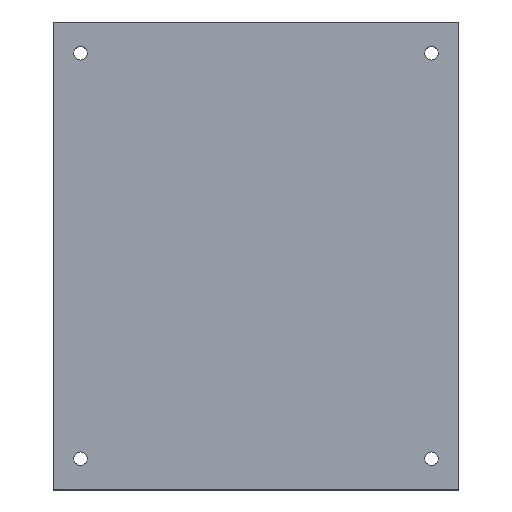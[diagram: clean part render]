
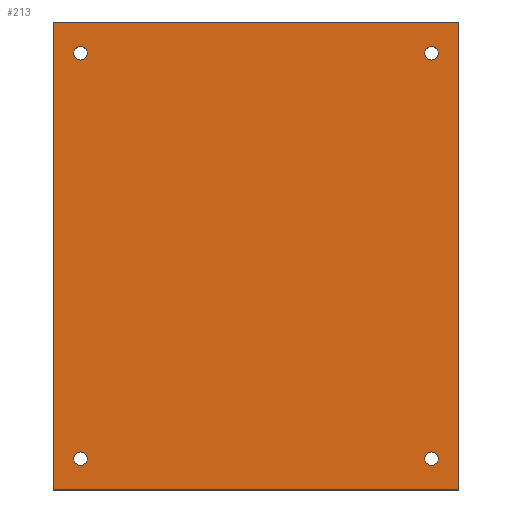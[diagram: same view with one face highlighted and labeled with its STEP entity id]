
A CAD part, top view. The second image highlights one B-rep face of the part: STEP entity #213.
In plain terms, the highlighted planar face has unit normal (0, 0, 1).
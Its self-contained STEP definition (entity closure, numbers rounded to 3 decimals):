
#24 = VERTEX_POINT('',#25);
#25 = CARTESIAN_POINT('',(0.,0.,5.));
#32 = PLANE('',#33);
#33 = AXIS2_PLACEMENT_3D('',#34,#35,#36);
#34 = CARTESIAN_POINT('',(0.,0.,0.));
#35 = DIRECTION('',(1.,0.,0.));
#36 = DIRECTION('',(0.,0.,1.));
#44 = PLANE('',#45);
#45 = AXIS2_PLACEMENT_3D('',#46,#47,#48);
#46 = CARTESIAN_POINT('',(0.,0.,0.));
#47 = DIRECTION('',(0.,1.,0.));
#48 = DIRECTION('',(0.,0.,1.));
#85 = VERTEX_POINT('',#86);
#86 = CARTESIAN_POINT('',(0.,120.,5.));
#100 = PLANE('',#101);
#101 = AXIS2_PLACEMENT_3D('',#102,#103,#104);
#102 = CARTESIAN_POINT('',(0.,120.,0.));
#103 = DIRECTION('',(0.,1.,0.));
#104 = DIRECTION('',(0.,0.,1.));
#112 = EDGE_CURVE('',#24,#85,#113,.T.);
#113 = SURFACE_CURVE('',#114,(#118,#125),.PCURVE_S1.);
#114 = LINE('',#115,#116);
#115 = CARTESIAN_POINT('',(0.,0.,5.));
#116 = VECTOR('',#117,1.);
#117 = DIRECTION('',(0.,1.,0.));
#118 = PCURVE('',#32,#119);
#119 = DEFINITIONAL_REPRESENTATION('',(#120),#124);
#120 = LINE('',#121,#122);
#121 = CARTESIAN_POINT('',(5.,0.));
#122 = VECTOR('',#123,1.);
#123 = DIRECTION('',(0.,-1.));
#124 = ( GEOMETRIC_REPRESENTATION_CONTEXT(2) 
PARAMETRIC_REPRESENTATION_CONTEXT() REPRESENTATION_CONTEXT('2D SPACE',''
  ) );
#125 = PCURVE('',#126,#131);
#126 = PLANE('',#127);
#127 = AXIS2_PLACEMENT_3D('',#128,#129,#130);
#128 = CARTESIAN_POINT('',(0.,0.,5.));
#129 = DIRECTION('',(0.,0.,1.));
#130 = DIRECTION('',(1.,0.,0.));
#131 = DEFINITIONAL_REPRESENTATION('',(#132),#136);
#132 = LINE('',#133,#134);
#133 = CARTESIAN_POINT('',(0.,0.));
#134 = VECTOR('',#135,1.);
#135 = DIRECTION('',(0.,1.));
#136 = ( GEOMETRIC_REPRESENTATION_CONTEXT(2) 
PARAMETRIC_REPRESENTATION_CONTEXT() REPRESENTATION_CONTEXT('2D SPACE',''
  ) );
#165 = EDGE_CURVE('',#24,#166,#168,.T.);
#166 = VERTEX_POINT('',#167);
#167 = CARTESIAN_POINT('',(104.,0.,5.));
#168 = SURFACE_CURVE('',#169,(#173,#180),.PCURVE_S1.);
#169 = LINE('',#170,#171);
#170 = CARTESIAN_POINT('',(0.,0.,5.));
#171 = VECTOR('',#172,1.);
#172 = DIRECTION('',(1.,0.,0.));
#173 = PCURVE('',#44,#174);
#174 = DEFINITIONAL_REPRESENTATION('',(#175),#179);
#175 = LINE('',#176,#177);
#176 = CARTESIAN_POINT('',(5.,0.));
#177 = VECTOR('',#178,1.);
#178 = DIRECTION('',(0.,1.));
#179 = ( GEOMETRIC_REPRESENTATION_CONTEXT(2) 
PARAMETRIC_REPRESENTATION_CONTEXT() REPRESENTATION_CONTEXT('2D SPACE',''
  ) );
#180 = PCURVE('',#126,#181);
#181 = DEFINITIONAL_REPRESENTATION('',(#182),#186);
#182 = LINE('',#183,#184);
#183 = CARTESIAN_POINT('',(0.,0.));
#184 = VECTOR('',#185,1.);
#185 = DIRECTION('',(1.,0.));
#186 = ( GEOMETRIC_REPRESENTATION_CONTEXT(2) 
PARAMETRIC_REPRESENTATION_CONTEXT() REPRESENTATION_CONTEXT('2D SPACE',''
  ) );
#202 = PLANE('',#203);
#203 = AXIS2_PLACEMENT_3D('',#204,#205,#206);
#204 = CARTESIAN_POINT('',(104.,0.,0.));
#205 = DIRECTION('',(1.,0.,0.));
#206 = DIRECTION('',(0.,0.,1.));
#213 = ADVANCED_FACE('',(#214,#262,#293,#324,#355),#126,.T.);
#214 = FACE_BOUND('',#215,.T.);
#215 = EDGE_LOOP('',(#216,#217,#218,#241));
#216 = ORIENTED_EDGE('',*,*,#112,.F.);
#217 = ORIENTED_EDGE('',*,*,#165,.T.);
#218 = ORIENTED_EDGE('',*,*,#219,.T.);
#219 = EDGE_CURVE('',#166,#220,#222,.T.);
#220 = VERTEX_POINT('',#221);
#221 = CARTESIAN_POINT('',(104.,120.,5.));
#222 = SURFACE_CURVE('',#223,(#227,#234),.PCURVE_S1.);
#223 = LINE('',#224,#225);
#224 = CARTESIAN_POINT('',(104.,0.,5.));
#225 = VECTOR('',#226,1.);
#226 = DIRECTION('',(0.,1.,0.));
#227 = PCURVE('',#126,#228);
#228 = DEFINITIONAL_REPRESENTATION('',(#229),#233);
#229 = LINE('',#230,#231);
#230 = CARTESIAN_POINT('',(104.,0.));
#231 = VECTOR('',#232,1.);
#232 = DIRECTION('',(0.,1.));
#233 = ( GEOMETRIC_REPRESENTATION_CONTEXT(2) 
PARAMETRIC_REPRESENTATION_CONTEXT() REPRESENTATION_CONTEXT('2D SPACE',''
  ) );
#234 = PCURVE('',#202,#235);
#235 = DEFINITIONAL_REPRESENTATION('',(#236),#240);
#236 = LINE('',#237,#238);
#237 = CARTESIAN_POINT('',(5.,0.));
#238 = VECTOR('',#239,1.);
#239 = DIRECTION('',(0.,-1.));
#240 = ( GEOMETRIC_REPRESENTATION_CONTEXT(2) 
PARAMETRIC_REPRESENTATION_CONTEXT() REPRESENTATION_CONTEXT('2D SPACE',''
  ) );
#241 = ORIENTED_EDGE('',*,*,#242,.F.);
#242 = EDGE_CURVE('',#85,#220,#243,.T.);
#243 = SURFACE_CURVE('',#244,(#248,#255),.PCURVE_S1.);
#244 = LINE('',#245,#246);
#245 = CARTESIAN_POINT('',(0.,120.,5.));
#246 = VECTOR('',#247,1.);
#247 = DIRECTION('',(1.,0.,0.));
#248 = PCURVE('',#126,#249);
#249 = DEFINITIONAL_REPRESENTATION('',(#250),#254);
#250 = LINE('',#251,#252);
#251 = CARTESIAN_POINT('',(0.,120.));
#252 = VECTOR('',#253,1.);
#253 = DIRECTION('',(1.,0.));
#254 = ( GEOMETRIC_REPRESENTATION_CONTEXT(2) 
PARAMETRIC_REPRESENTATION_CONTEXT() REPRESENTATION_CONTEXT('2D SPACE',''
  ) );
#255 = PCURVE('',#100,#256);
#256 = DEFINITIONAL_REPRESENTATION('',(#257),#261);
#257 = LINE('',#258,#259);
#258 = CARTESIAN_POINT('',(5.,0.));
#259 = VECTOR('',#260,1.);
#260 = DIRECTION('',(0.,1.));
#261 = ( GEOMETRIC_REPRESENTATION_CONTEXT(2) 
PARAMETRIC_REPRESENTATION_CONTEXT() REPRESENTATION_CONTEXT('2D SPACE',''
  ) );
#262 = FACE_BOUND('',#263,.T.);
#263 = EDGE_LOOP('',(#264));
#264 = ORIENTED_EDGE('',*,*,#265,.F.);
#265 = EDGE_CURVE('',#266,#266,#268,.T.);
#266 = VERTEX_POINT('',#267);
#267 = CARTESIAN_POINT('',(8.75,8.,5.));
#268 = SURFACE_CURVE('',#269,(#274,#281),.PCURVE_S1.);
#269 = CIRCLE('',#270,1.75);
#270 = AXIS2_PLACEMENT_3D('',#271,#272,#273);
#271 = CARTESIAN_POINT('',(7.,8.,5.));
#272 = DIRECTION('',(0.,0.,1.));
#273 = DIRECTION('',(1.,0.,-0.));
#274 = PCURVE('',#126,#275);
#275 = DEFINITIONAL_REPRESENTATION('',(#276),#280);
#276 = CIRCLE('',#277,1.75);
#277 = AXIS2_PLACEMENT_2D('',#278,#279);
#278 = CARTESIAN_POINT('',(7.,8.));
#279 = DIRECTION('',(1.,0.));
#280 = ( GEOMETRIC_REPRESENTATION_CONTEXT(2) 
PARAMETRIC_REPRESENTATION_CONTEXT() REPRESENTATION_CONTEXT('2D SPACE',''
  ) );
#281 = PCURVE('',#282,#287);
#282 = CYLINDRICAL_SURFACE('',#283,1.75);
#283 = AXIS2_PLACEMENT_3D('',#284,#285,#286);
#284 = CARTESIAN_POINT('',(7.,8.,-1.));
#285 = DIRECTION('',(0.,0.,1.));
#286 = DIRECTION('',(1.,0.,-0.));
#287 = DEFINITIONAL_REPRESENTATION('',(#288),#292);
#288 = LINE('',#289,#290);
#289 = CARTESIAN_POINT('',(0.,6.));
#290 = VECTOR('',#291,1.);
#291 = DIRECTION('',(1.,0.));
#292 = ( GEOMETRIC_REPRESENTATION_CONTEXT(2) 
PARAMETRIC_REPRESENTATION_CONTEXT() REPRESENTATION_CONTEXT('2D SPACE',''
  ) );
#293 = FACE_BOUND('',#294,.T.);
#294 = EDGE_LOOP('',(#295));
#295 = ORIENTED_EDGE('',*,*,#296,.F.);
#296 = EDGE_CURVE('',#297,#297,#299,.T.);
#297 = VERTEX_POINT('',#298);
#298 = CARTESIAN_POINT('',(98.75,8.,5.));
#299 = SURFACE_CURVE('',#300,(#305,#312),.PCURVE_S1.);
#300 = CIRCLE('',#301,1.75);
#301 = AXIS2_PLACEMENT_3D('',#302,#303,#304);
#302 = CARTESIAN_POINT('',(97.,8.,5.));
#303 = DIRECTION('',(0.,0.,1.));
#304 = DIRECTION('',(1.,0.,-0.));
#305 = PCURVE('',#126,#306);
#306 = DEFINITIONAL_REPRESENTATION('',(#307),#311);
#307 = CIRCLE('',#308,1.75);
#308 = AXIS2_PLACEMENT_2D('',#309,#310);
#309 = CARTESIAN_POINT('',(97.,8.));
#310 = DIRECTION('',(1.,0.));
#311 = ( GEOMETRIC_REPRESENTATION_CONTEXT(2) 
PARAMETRIC_REPRESENTATION_CONTEXT() REPRESENTATION_CONTEXT('2D SPACE',''
  ) );
#312 = PCURVE('',#313,#318);
#313 = CYLINDRICAL_SURFACE('',#314,1.75);
#314 = AXIS2_PLACEMENT_3D('',#315,#316,#317);
#315 = CARTESIAN_POINT('',(97.,8.,-1.));
#316 = DIRECTION('',(0.,0.,1.));
#317 = DIRECTION('',(1.,0.,-0.));
#318 = DEFINITIONAL_REPRESENTATION('',(#319),#323);
#319 = LINE('',#320,#321);
#320 = CARTESIAN_POINT('',(0.,6.));
#321 = VECTOR('',#322,1.);
#322 = DIRECTION('',(1.,0.));
#323 = ( GEOMETRIC_REPRESENTATION_CONTEXT(2) 
PARAMETRIC_REPRESENTATION_CONTEXT() REPRESENTATION_CONTEXT('2D SPACE',''
  ) );
#324 = FACE_BOUND('',#325,.T.);
#325 = EDGE_LOOP('',(#326));
#326 = ORIENTED_EDGE('',*,*,#327,.F.);
#327 = EDGE_CURVE('',#328,#328,#330,.T.);
#328 = VERTEX_POINT('',#329);
#329 = CARTESIAN_POINT('',(8.75,112.,5.));
#330 = SURFACE_CURVE('',#331,(#336,#343),.PCURVE_S1.);
#331 = CIRCLE('',#332,1.75);
#332 = AXIS2_PLACEMENT_3D('',#333,#334,#335);
#333 = CARTESIAN_POINT('',(7.,112.,5.));
#334 = DIRECTION('',(0.,0.,1.));
#335 = DIRECTION('',(1.,0.,-0.));
#336 = PCURVE('',#126,#337);
#337 = DEFINITIONAL_REPRESENTATION('',(#338),#342);
#338 = CIRCLE('',#339,1.75);
#339 = AXIS2_PLACEMENT_2D('',#340,#341);
#340 = CARTESIAN_POINT('',(7.,112.));
#341 = DIRECTION('',(1.,0.));
#342 = ( GEOMETRIC_REPRESENTATION_CONTEXT(2) 
PARAMETRIC_REPRESENTATION_CONTEXT() REPRESENTATION_CONTEXT('2D SPACE',''
  ) );
#343 = PCURVE('',#344,#349);
#344 = CYLINDRICAL_SURFACE('',#345,1.75);
#345 = AXIS2_PLACEMENT_3D('',#346,#347,#348);
#346 = CARTESIAN_POINT('',(7.,112.,-1.));
#347 = DIRECTION('',(0.,0.,1.));
#348 = DIRECTION('',(1.,0.,-0.));
#349 = DEFINITIONAL_REPRESENTATION('',(#350),#354);
#350 = LINE('',#351,#352);
#351 = CARTESIAN_POINT('',(0.,6.));
#352 = VECTOR('',#353,1.);
#353 = DIRECTION('',(1.,0.));
#354 = ( GEOMETRIC_REPRESENTATION_CONTEXT(2) 
PARAMETRIC_REPRESENTATION_CONTEXT() REPRESENTATION_CONTEXT('2D SPACE',''
  ) );
#355 = FACE_BOUND('',#356,.T.);
#356 = EDGE_LOOP('',(#357));
#357 = ORIENTED_EDGE('',*,*,#358,.F.);
#358 = EDGE_CURVE('',#359,#359,#361,.T.);
#359 = VERTEX_POINT('',#360);
#360 = CARTESIAN_POINT('',(98.75,112.,5.));
#361 = SURFACE_CURVE('',#362,(#367,#374),.PCURVE_S1.);
#362 = CIRCLE('',#363,1.75);
#363 = AXIS2_PLACEMENT_3D('',#364,#365,#366);
#364 = CARTESIAN_POINT('',(97.,112.,5.));
#365 = DIRECTION('',(0.,0.,1.));
#366 = DIRECTION('',(1.,0.,-0.));
#367 = PCURVE('',#126,#368);
#368 = DEFINITIONAL_REPRESENTATION('',(#369),#373);
#369 = CIRCLE('',#370,1.75);
#370 = AXIS2_PLACEMENT_2D('',#371,#372);
#371 = CARTESIAN_POINT('',(97.,112.));
#372 = DIRECTION('',(1.,0.));
#373 = ( GEOMETRIC_REPRESENTATION_CONTEXT(2) 
PARAMETRIC_REPRESENTATION_CONTEXT() REPRESENTATION_CONTEXT('2D SPACE',''
  ) );
#374 = PCURVE('',#375,#380);
#375 = CYLINDRICAL_SURFACE('',#376,1.75);
#376 = AXIS2_PLACEMENT_3D('',#377,#378,#379);
#377 = CARTESIAN_POINT('',(97.,112.,-1.));
#378 = DIRECTION('',(0.,0.,1.));
#379 = DIRECTION('',(1.,0.,-0.));
#380 = DEFINITIONAL_REPRESENTATION('',(#381),#385);
#381 = LINE('',#382,#383);
#382 = CARTESIAN_POINT('',(0.,6.));
#383 = VECTOR('',#384,1.);
#384 = DIRECTION('',(1.,0.));
#385 = ( GEOMETRIC_REPRESENTATION_CONTEXT(2) 
PARAMETRIC_REPRESENTATION_CONTEXT() REPRESENTATION_CONTEXT('2D SPACE',''
  ) );
